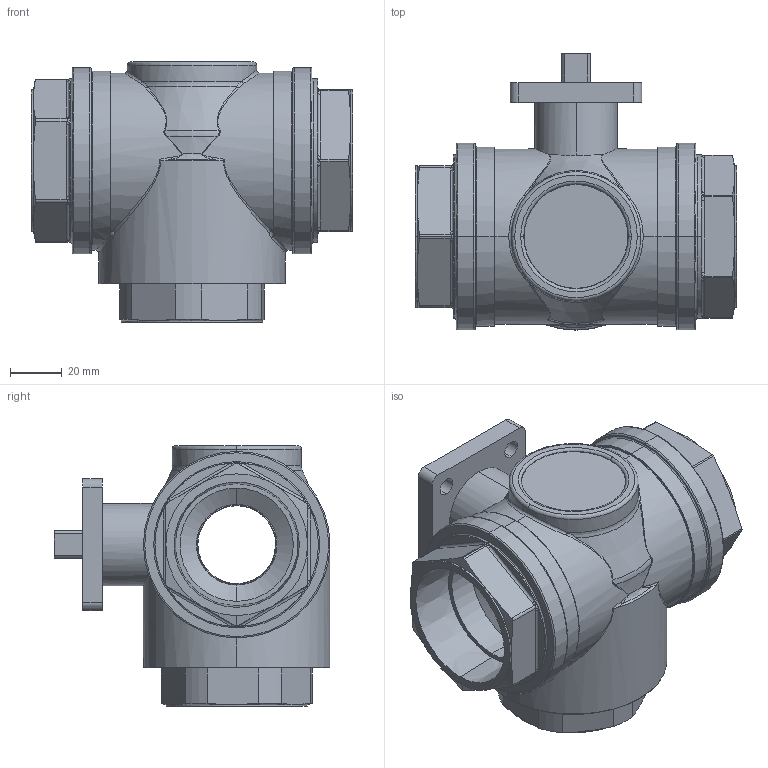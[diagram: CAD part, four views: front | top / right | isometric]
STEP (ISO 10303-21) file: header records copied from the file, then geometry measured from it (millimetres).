
FILE_DESCRIPTION (( 'STEP AP203' ), '1' );
FILE_NAME ('b2s-12tt.STEP', '2021-06-29T17:17:04', ( 'Owner' ), ( '' ), 'SwSTEP 2.0', 'SolidWorks 2017', '' );
FILE_SCHEMA (( 'CONFIG_CONTROL_DESIGN' ));
Length unit declared in the file: inch
Products named in the file (2): b2s-12tt
Bounding box: 123.7 x 106.33 x 100.33 mm (x, y, z)
Volume: 364948.8 mm3; surface area: 71628.9 mm2
Topology: 1 solids, 3 shells, 346 faces, 844 edges, 507 vertices
Faces by surface type: cylinder 114, bspline 76, plane 74, torus 40, cone 36, sphere 6
Entity records: 13885 total; most frequent: CARTESIAN_POINT 6068, ORIENTED_EDGE 1672, DIRECTION 1566, EDGE_CURVE 836, AXIS2_PLACEMENT_3D 671, VERTEX_POINT 505, CIRCLE 399, EDGE_LOOP 367
